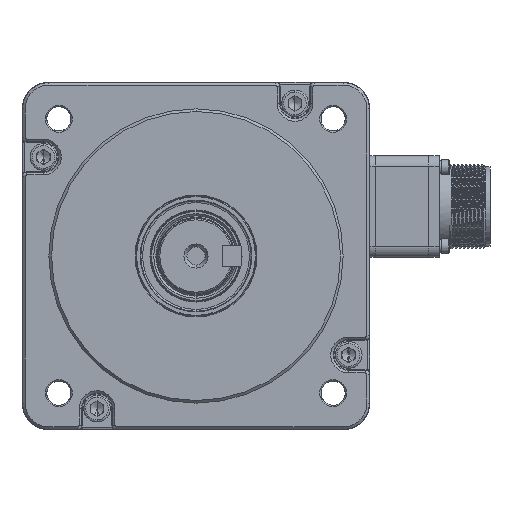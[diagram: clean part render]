
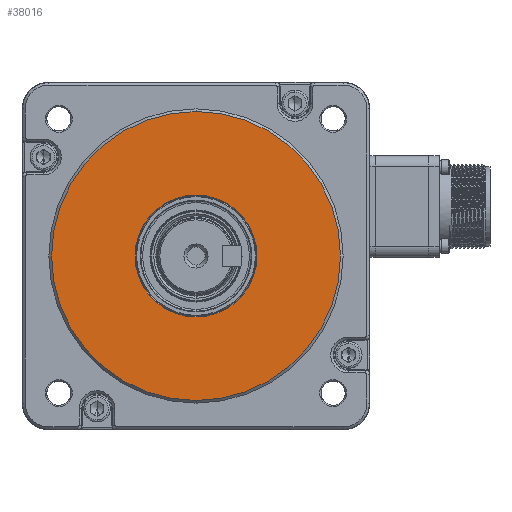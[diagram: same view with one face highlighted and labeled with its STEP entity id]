
A CAD part, left-side view. The second image highlights one B-rep face of the part: STEP entity #38016.
In plain terms, the highlighted planar face has unit normal (1, 0, 0).
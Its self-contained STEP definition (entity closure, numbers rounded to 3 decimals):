
#1145 = ORIENTED_EDGE ( 'NONE', *, *, #34829, .T. ) ;
#2455 = CARTESIAN_POINT ( 'NONE',  ( 57., 0., -54. ) ) ;
#3381 = DIRECTION ( 'NONE',  ( 1., 0., 0. ) ) ;
#5518 = AXIS2_PLACEMENT_3D ( 'NONE', #8886, #31550, #12811 ) ;
#6590 = VERTEX_POINT ( 'NONE', #27944 ) ;
#8886 = CARTESIAN_POINT ( 'NONE',  ( 57., 0., 0. ) ) ;
#9502 = EDGE_CURVE ( 'NONE', #27459, #6590, #34094, .T. ) ;
#10246 = CIRCLE ( 'NONE', #5518, 22.789 ) ;
#12811 = DIRECTION ( 'NONE',  ( 0., 0., 1. ) ) ;
#16890 = PLANE ( 'NONE',  #18663 ) ;
#17379 = FACE_OUTER_BOUND ( 'NONE', #18218, .T. ) ;
#17889 = DIRECTION ( 'NONE',  ( 1., 0., 0. ) ) ;
#18218 = EDGE_LOOP ( 'NONE', ( #40251, #27688 ) ) ;
#18238 = EDGE_CURVE ( 'NONE', #6590, #27459, #21075, .T. ) ;
#18663 = AXIS2_PLACEMENT_3D ( 'NONE', #24538, #47405, #25028 ) ;
#18857 = CARTESIAN_POINT ( 'NONE',  ( 57., 0., -22.789 ) ) ;
#21075 = CIRCLE ( 'NONE', #34431, 54. ) ;
#24538 = CARTESIAN_POINT ( 'NONE',  ( 57., 0., 0. ) ) ;
#25028 = DIRECTION ( 'NONE',  ( 0., 0., -1. ) ) ;
#26263 = DIRECTION ( 'NONE',  ( 0., 0., -1. ) ) ;
#26621 = VERTEX_POINT ( 'NONE', #18857 ) ;
#27150 = AXIS2_PLACEMENT_3D ( 'NONE', #44370, #48526, #28865 ) ;
#27459 = VERTEX_POINT ( 'NONE', #2455 ) ;
#27688 = ORIENTED_EDGE ( 'NONE', *, *, #18238, .T. ) ;
#27944 = CARTESIAN_POINT ( 'NONE',  ( 57., 0., 54. ) ) ;
#28865 = DIRECTION ( 'NONE',  ( 0., 0., 1. ) ) ;
#31449 = CARTESIAN_POINT ( 'NONE',  ( 57., 0., 22.789 ) ) ;
#31550 = DIRECTION ( 'NONE',  ( -1., 0., 0. ) ) ;
#33062 = EDGE_LOOP ( 'NONE', ( #1145, #42752 ) ) ;
#34094 = CIRCLE ( 'NONE', #42759, 54. ) ;
#34431 = AXIS2_PLACEMENT_3D ( 'NONE', #48410, #17889, #26263 ) ;
#34829 = EDGE_CURVE ( 'NONE', #34936, #26621, #42102, .T. ) ;
#34936 = VERTEX_POINT ( 'NONE', #31449 ) ;
#38016 = ADVANCED_FACE ( 'NONE', ( #43973, #17379 ), #16890, .T. ) ;
#40251 = ORIENTED_EDGE ( 'NONE', *, *, #9502, .T. ) ;
#41088 = DIRECTION ( 'NONE',  ( 0., 0., -1. ) ) ;
#42102 = CIRCLE ( 'NONE', #27150, 22.789 ) ;
#42752 = ORIENTED_EDGE ( 'NONE', *, *, #47493, .T. ) ;
#42759 = AXIS2_PLACEMENT_3D ( 'NONE', #45232, #3381, #41088 ) ;
#43973 = FACE_BOUND ( 'NONE', #33062, .T. ) ;
#44370 = CARTESIAN_POINT ( 'NONE',  ( 57., 0., 0. ) ) ;
#45232 = CARTESIAN_POINT ( 'NONE',  ( 57., 0., 0. ) ) ;
#47405 = DIRECTION ( 'NONE',  ( 1., 0., 0. ) ) ;
#47493 = EDGE_CURVE ( 'NONE', #26621, #34936, #10246, .T. ) ;
#48410 = CARTESIAN_POINT ( 'NONE',  ( 57., 0., 0. ) ) ;
#48526 = DIRECTION ( 'NONE',  ( -1., 0., 0. ) ) ;
